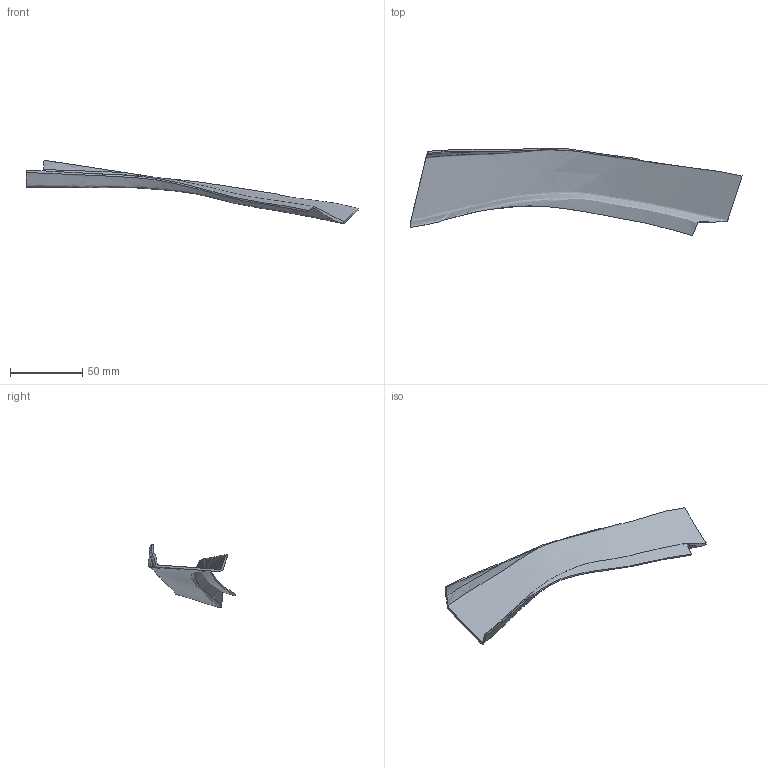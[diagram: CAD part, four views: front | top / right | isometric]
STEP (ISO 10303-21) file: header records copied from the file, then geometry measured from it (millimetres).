
FILE_DESCRIPTION(/* description */ ('Unknown','CAx-IF Rec.Pracs.---Representation and Presentation of Product Manufacturing Information (PMI)---4.0---2014-10-13','CAx-IF Rec.Pracs.---3D Tessellated Geometry---0.4---2014-09-14','2;1'),/* implementation_level */ '2;1');
FILE_NAME(/* name */ 'flashing 3D left',/* time_stamp */ '2025-11-20T16:01:29+01:00',/* author */ ('Unknown'),/* organization */ ('Unknown'),/* preprocessor_version */ 'ST-DEVELOPER v16.7',/* originating_system */ 'Solid Edge',/* authorisation */ 'Unknown');
FILE_SCHEMA (('AP242_MANAGED_MODEL_BASED_3D_ENGINEERING_MIM_LF { 1 0 10303 442 1 1 4 }'));
Length unit declared in the file: millimetre
Products named in the file (1): vierte aguas 3D izquierdo
Bounding box: 230.41 x 60.62 x 44.13 mm (x, y, z)
Volume: 12847.8 mm3; surface area: 22928.4 mm2
Topology: 1 solids, 1 shells, 23 faces, 73 edges, 52 vertices
Faces by surface type: bspline 13, plane 9, cylinder 1
Entity records: 4088 total; most frequent: CARTESIAN_POINT 3536, ORIENTED_EDGE 146, EDGE_CURVE 73, DIRECTION 63, VERTEX_POINT 52, B_SPLINE_CURVE_WITH_KNOTS 34, EDGE_LOOP 23, FACE_BOUND 23
